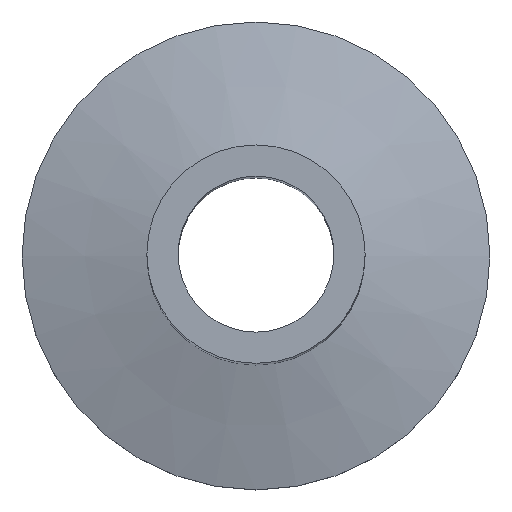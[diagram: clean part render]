
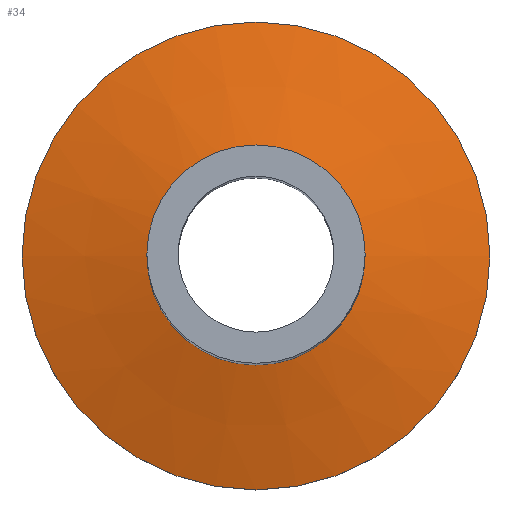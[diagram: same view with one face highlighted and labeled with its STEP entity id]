
A CAD part, top view. The second image highlights one B-rep face of the part: STEP entity #34.
In plain terms, the highlighted conical face has half-angle 75 degrees and reference radius 15 mm.
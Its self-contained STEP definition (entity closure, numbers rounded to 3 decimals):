
#34 = ADVANCED_FACE( '', ( #69, #70 ), #71, .T. );
#69 = FACE_BOUND( '', #108, .T. );
#70 = FACE_OUTER_BOUND( '', #109, .T. );
#71 = CONICAL_SURFACE( '', #110, 15., 1.309 );
#108 = EDGE_LOOP( '', ( #143 ) );
#109 = EDGE_LOOP( '', ( #144 ) );
#110 = AXIS2_PLACEMENT_3D( '', #145, #146, #147 );
#143 = ORIENTED_EDGE( '', *, *, #186, .F. );
#144 = ORIENTED_EDGE( '', *, *, #188, .T. );
#145 = CARTESIAN_POINT( '', ( 0., 0., 3. ) );
#146 = DIRECTION( '', ( 0., 0., -1. ) );
#147 = DIRECTION( '', ( -1., 0., 0. ) );
#186 = EDGE_CURVE( '', #203, #203, #204, .T. );
#188 = EDGE_CURVE( '', #206, #206, #207, .T. );
#203 = VERTEX_POINT( '', #227 );
#204 = CIRCLE( '', #228, 7. );
#206 = VERTEX_POINT( '', #230 );
#207 = CIRCLE( '', #231, 15. );
#227 = CARTESIAN_POINT( '', ( 7., 0., 5.144 ) );
#228 = AXIS2_PLACEMENT_3D( '', #251, #252, #253 );
#230 = CARTESIAN_POINT( '', ( 15., 0., 3. ) );
#231 = AXIS2_PLACEMENT_3D( '', #254, #255, #256 );
#251 = CARTESIAN_POINT( '', ( 0., 0., 5.144 ) );
#252 = DIRECTION( '', ( 0., 0., 1. ) );
#253 = DIRECTION( '', ( 1., 0., 0. ) );
#254 = CARTESIAN_POINT( '', ( 0., 0., 3. ) );
#255 = DIRECTION( '', ( 0., 0., 1. ) );
#256 = DIRECTION( '', ( 1., 0., 0. ) );
